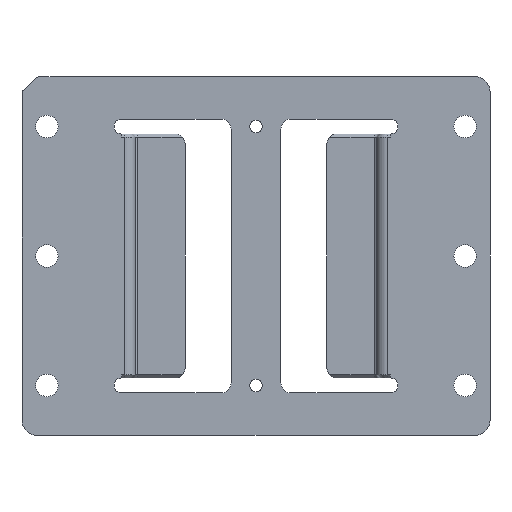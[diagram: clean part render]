
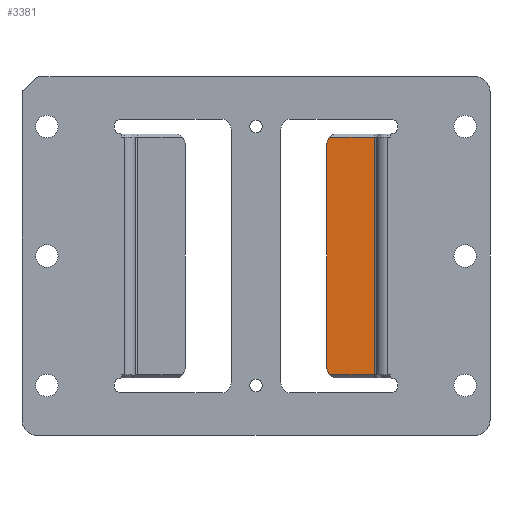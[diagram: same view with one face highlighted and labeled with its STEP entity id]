
A CAD part, front view. The second image highlights one B-rep face of the part: STEP entity #3381.
In plain terms, the highlighted planar face has unit normal (0, -1, 0).
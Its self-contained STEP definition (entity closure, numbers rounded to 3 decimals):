
#1224=DIRECTION('',(0.,0.,-1.));
#1225=VECTOR('',#1224,47.8);
#1226=CARTESIAN_POINT('',(23.75,2.,-2.1));
#1227=LINE('',#1226,#1225);
#1246=CARTESIAN_POINT('',(16.25,2.,-3.5));
#1247=DIRECTION('',(0.,-1.,0.));
#1248=DIRECTION('',(-0.714,0.,0.7));
#1249=AXIS2_PLACEMENT_3D('',#1246,#1247,#1248);
#1254=DIRECTION('',(-1.,0.,0.));
#1255=VECTOR('',#1254,8.928);
#1256=CARTESIAN_POINT('',(23.75,2.,-2.1));
#1257=LINE('',#1256,#1255);
#1261=DIRECTION('',(-1.,0.,0.));
#1262=VECTOR('',#1261,8.928);
#1263=CARTESIAN_POINT('',(23.75,2.,-49.9));
#1264=LINE('',#1263,#1262);
#1268=CARTESIAN_POINT('',(16.25,2.,-48.5));
#1269=DIRECTION('',(0.,-1.,0.));
#1270=DIRECTION('',(-1.,0.,0.));
#1271=AXIS2_PLACEMENT_3D('',#1268,#1269,#1270);
#1276=DIRECTION('',(0.,0.,1.));
#1277=VECTOR('',#1276,45.);
#1278=CARTESIAN_POINT('',(14.25,2.,-48.5));
#1279=LINE('',#1278,#1277);
#1424=CARTESIAN_POINT('',(14.822,2.,-2.1));
#2245=CARTESIAN_POINT('',(23.75,2.,-2.1));
#2246=VERTEX_POINT('',#2245);
#2296=VERTEX_POINT('',#1424);
#2297=CARTESIAN_POINT('',(14.25,2.,-3.5));
#2298=VERTEX_POINT('',#2297);
#2303=CARTESIAN_POINT('',(14.25,2.,-48.5));
#2304=VERTEX_POINT('',#2303);
#2305=CARTESIAN_POINT('',(14.822,2.,-49.9));
#2306=VERTEX_POINT('',#2305);
#2391=CARTESIAN_POINT('',(23.75,2.,-49.9));
#2392=VERTEX_POINT('',#2391);
#3363=CARTESIAN_POINT('',(25.85,2.,-13.142));
#3364=DIRECTION('',(0.,1.,0.));
#3365=DIRECTION('',(0.,0.,-1.));
#3366=AXIS2_PLACEMENT_3D('',#3363,#3364,#3365);
#3367=PLANE('',#3366);
#3369=ORIENTED_EDGE('',*,*,#3368,.F.);
#3371=ORIENTED_EDGE('',*,*,#3370,.F.);
#3372=ORIENTED_EDGE('',*,*,#3355,.T.);
#3374=ORIENTED_EDGE('',*,*,#3373,.T.);
#3376=ORIENTED_EDGE('',*,*,#3375,.F.);
#3378=ORIENTED_EDGE('',*,*,#3377,.T.);
#3379=EDGE_LOOP('',(#3369,#3371,#3372,#3374,#3376,#3378));
#3380=FACE_OUTER_BOUND('',#3379,.F.);
#1250=CIRCLE('',#1249,2.);
#1272=CIRCLE('',#1271,2.);
#3355=EDGE_CURVE('',#2246,#2392,#1227,.T.);
#3368=EDGE_CURVE('',#2296,#2298,#1250,.T.);
#3370=EDGE_CURVE('',#2246,#2296,#1257,.T.);
#3373=EDGE_CURVE('',#2392,#2306,#1264,.T.);
#3375=EDGE_CURVE('',#2304,#2306,#1272,.T.);
#3377=EDGE_CURVE('',#2304,#2298,#1279,.T.);
#3381=ADVANCED_FACE('',(#3380),#3367,.F.);
